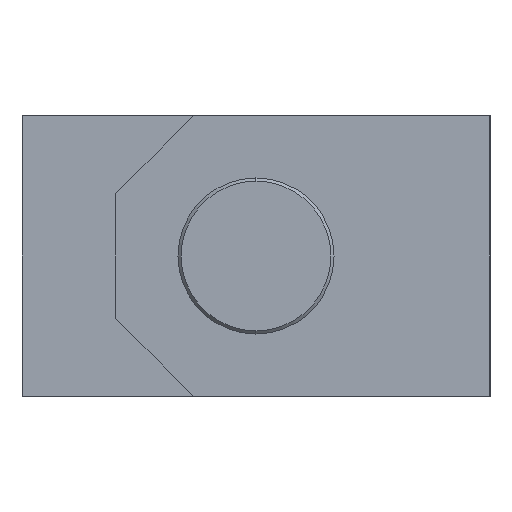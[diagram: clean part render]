
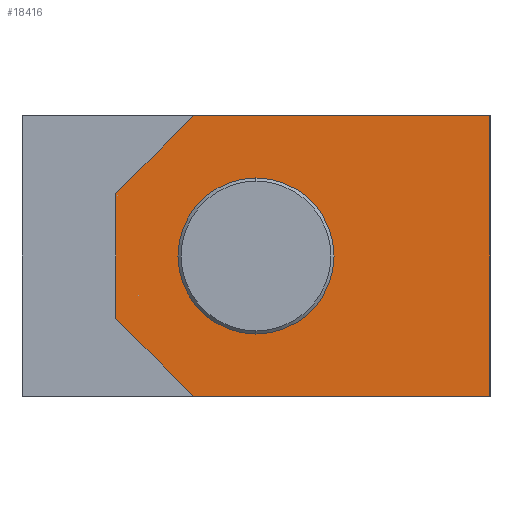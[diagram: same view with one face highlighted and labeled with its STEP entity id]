
A CAD part, left-side view. The second image highlights one B-rep face of the part: STEP entity #18416.
In plain terms, the highlighted planar face has unit normal (-1, 0, 0).
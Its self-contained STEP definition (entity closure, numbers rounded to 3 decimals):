
#143 = CARTESIAN_POINT ( 'NONE',  ( -30., -12., -9. ) ) ;
#495 = FACE_OUTER_BOUND ( 'NONE', #4954, .T. ) ;
#1937 = AXIS2_PLACEMENT_3D ( 'NONE', #13538, #21246, #26587 ) ;
#1960 = AXIS2_PLACEMENT_3D ( 'NONE', #11544, #22004, #32522 ) ;
#1991 = CARTESIAN_POINT ( 'NONE',  ( -30., 12., 4. ) ) ;
#2050 = EDGE_CURVE ( 'NONE', #13656, #28215, #9046, .T. ) ;
#2356 = CARTESIAN_POINT ( 'NONE',  ( -30., 7., 9. ) ) ;
#2681 = VERTEX_POINT ( 'NONE', #20923 ) ;
#2780 = CARTESIAN_POINT ( 'NONE',  ( -30., 3., -5. ) ) ;
#3738 = CARTESIAN_POINT ( 'NONE',  ( -30., 12., 4. ) ) ;
#4070 = CIRCLE ( 'NONE', #24338, 5. ) ;
#4954 = EDGE_LOOP ( 'NONE', ( #15849, #18251, #24911, #13331, #19909, #32635 ) ) ;
#5313 = FACE_BOUND ( 'NONE', #5929, .T. ) ;
#5929 = EDGE_LOOP ( 'NONE', ( #21025, #32801 ) ) ;
#5940 = LINE ( 'NONE', #16371, #9284 ) ;
#6099 = EDGE_CURVE ( 'NONE', #32725, #9015, #14829, .T. ) ;
#6965 = EDGE_CURVE ( 'NONE', #11169, #14175, #4070, .T. ) ;
#7861 = EDGE_CURVE ( 'NONE', #19626, #13656, #12379, .T. ) ;
#7883 = PLANE ( 'NONE',  #1937 ) ;
#7991 = CIRCLE ( 'NONE', #1960, 5. ) ;
#8047 = LINE ( 'NONE', #143, #21731 ) ;
#9015 = VERTEX_POINT ( 'NONE', #31318 ) ;
#9046 = LINE ( 'NONE', #3738, #22880 ) ;
#9284 = VECTOR ( 'NONE', #22035, 1000. ) ;
#10217 = VECTOR ( 'NONE', #13502, 1000. ) ;
#11169 = VERTEX_POINT ( 'NONE', #2780 ) ;
#11544 = CARTESIAN_POINT ( 'NONE',  ( -30., 3., 0. ) ) ;
#11875 = CARTESIAN_POINT ( 'NONE',  ( -30., 7., 9. ) ) ;
#12035 = CARTESIAN_POINT ( 'NONE',  ( -30., 12., -4. ) ) ;
#12379 = LINE ( 'NONE', #11875, #13421 ) ;
#13331 = ORIENTED_EDGE ( 'NONE', *, *, #2050, .T. ) ;
#13421 = VECTOR ( 'NONE', #22329, 1000. ) ;
#13502 = DIRECTION ( 'NONE',  ( 0., 1., 0. ) ) ;
#13538 = CARTESIAN_POINT ( 'NONE',  ( -30., 0., 0. ) ) ;
#13656 = VERTEX_POINT ( 'NONE', #1991 ) ;
#14175 = VERTEX_POINT ( 'NONE', #24732 ) ;
#14829 = LINE ( 'NONE', #20661, #21591 ) ;
#15849 = ORIENTED_EDGE ( 'NONE', *, *, #6099, .F. ) ;
#16371 = CARTESIAN_POINT ( 'NONE',  ( -30., 12., -4. ) ) ;
#18251 = ORIENTED_EDGE ( 'NONE', *, *, #25020, .T. ) ;
#18416 = ADVANCED_FACE ( 'NONE', ( #5313, #495 ), #7883, .F. ) ;
#19626 = VERTEX_POINT ( 'NONE', #2356 ) ;
#19909 = ORIENTED_EDGE ( 'NONE', *, *, #32735, .T. ) ;
#20661 = CARTESIAN_POINT ( 'NONE',  ( -30., -12., 9. ) ) ;
#20923 = CARTESIAN_POINT ( 'NONE',  ( -30., 7., -9. ) ) ;
#21025 = ORIENTED_EDGE ( 'NONE', *, *, #21449, .F. ) ;
#21246 = DIRECTION ( 'NONE',  ( 1., 0., 0. ) ) ;
#21449 = EDGE_CURVE ( 'NONE', #14175, #11169, #7991, .T. ) ;
#21591 = VECTOR ( 'NONE', #30490, 1000. ) ;
#21731 = VECTOR ( 'NONE', #29003, 1000. ) ;
#22004 = DIRECTION ( 'NONE',  ( -1., 0., 0. ) ) ;
#22035 = DIRECTION ( 'NONE',  ( 0., -0.707, -0.707 ) ) ;
#22070 = DIRECTION ( 'NONE',  ( 0., 0., -1. ) ) ;
#22329 = DIRECTION ( 'NONE',  ( 0., 0.707, -0.707 ) ) ;
#22880 = VECTOR ( 'NONE', #22070, 1000. ) ;
#23767 = EDGE_CURVE ( 'NONE', #9015, #2681, #8047, .T. ) ;
#24134 = CARTESIAN_POINT ( 'NONE',  ( -30., -12., 9. ) ) ;
#24338 = AXIS2_PLACEMENT_3D ( 'NONE', #24596, #30113, #24936 ) ;
#24596 = CARTESIAN_POINT ( 'NONE',  ( -30., 3., 0. ) ) ;
#24732 = CARTESIAN_POINT ( 'NONE',  ( -30., 3., 5. ) ) ;
#24911 = ORIENTED_EDGE ( 'NONE', *, *, #7861, .T. ) ;
#24936 = DIRECTION ( 'NONE',  ( 0., 0., 1. ) ) ;
#25020 = EDGE_CURVE ( 'NONE', #32725, #19626, #27776, .T. ) ;
#26587 = DIRECTION ( 'NONE',  ( 0., 0., -1. ) ) ;
#27776 = LINE ( 'NONE', #24134, #10217 ) ;
#28215 = VERTEX_POINT ( 'NONE', #12035 ) ;
#29003 = DIRECTION ( 'NONE',  ( 0., 1., 0. ) ) ;
#30113 = DIRECTION ( 'NONE',  ( -1., 0., 0. ) ) ;
#30490 = DIRECTION ( 'NONE',  ( 0., 0., -1. ) ) ;
#31318 = CARTESIAN_POINT ( 'NONE',  ( -30., -12., -9. ) ) ;
#32394 = CARTESIAN_POINT ( 'NONE',  ( -30., -12., 9. ) ) ;
#32522 = DIRECTION ( 'NONE',  ( 0., 0., 1. ) ) ;
#32635 = ORIENTED_EDGE ( 'NONE', *, *, #23767, .F. ) ;
#32725 = VERTEX_POINT ( 'NONE', #32394 ) ;
#32735 = EDGE_CURVE ( 'NONE', #28215, #2681, #5940, .T. ) ;
#32801 = ORIENTED_EDGE ( 'NONE', *, *, #6965, .F. ) ;
